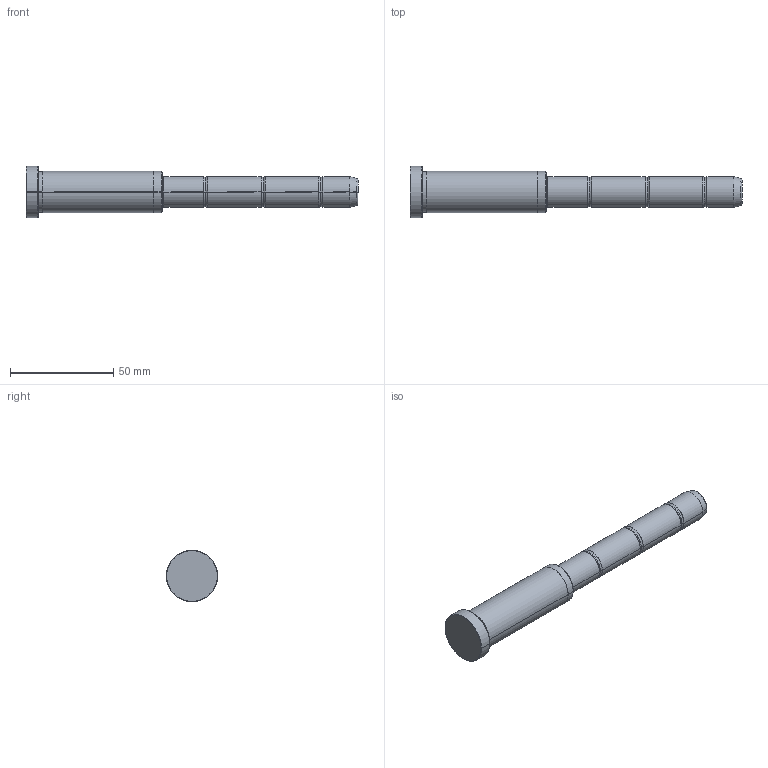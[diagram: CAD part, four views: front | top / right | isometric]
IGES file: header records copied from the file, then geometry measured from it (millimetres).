
Start section: SolidWorks IGES file using analytic representation for surfaces
Global section: file name: C:\Users\Ryan\Documents\PCS\Metric DIN Guide Pins - Without Collar\GDP-ES-15\GDP-ES-15-066-095.igs; native system: SolidWorks 2009; preprocessor: SolidWorks 2009; author: Ryan; date: 151123.214618; units: millimetre
Bounding box: 161 x 25 x 25 mm (x, y, z)
Surface area: 9653.7 mm2 (no closed solid volume)
Topology: 0 solids, 0 shells, 48 faces, 488 edges, 488 vertices
Faces by surface type: bspline 24, revolution 24
